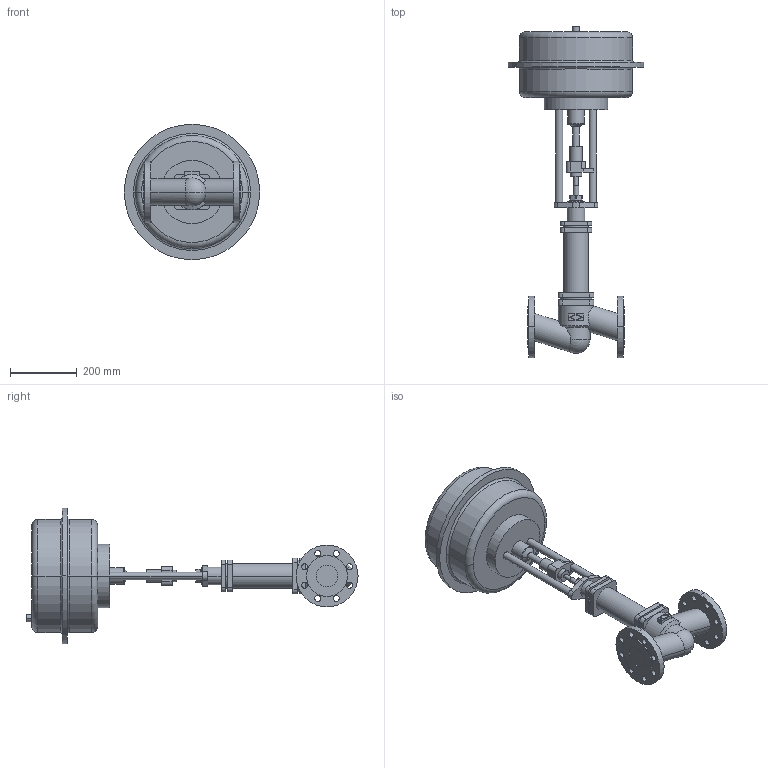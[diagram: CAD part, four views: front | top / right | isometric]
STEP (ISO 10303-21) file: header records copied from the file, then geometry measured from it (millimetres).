
FILE_DESCRIPTION(('OneSpaceDesigner STEP Export'),'2;1');
FILE_NAME('c000002092.stp','2005-12-12T11:51:44',(''),(''),'OneSpace Designer STEP processor for AP203 (Solid Model)','OneSpace Designer 13.20A 18-Aug-2005 (C) CoCreate Software GmbH','');
FILE_SCHEMA(('CONFIG_CONTROL_DESIGN'));
Length unit declared in the file: millimetre
Products named in the file (1): 1
Bounding box: 405 x 993 x 405 mm (x, y, z)
Volume: 23995696 mm3; surface area: 880018 mm2
Topology: 1 solids, 1 shells, 221 faces, 554 edges, 365 vertices
Faces by surface type: cylinder 120, plane 85, torus 10, cone 4, sphere 2
Entity records: 6372 total; most frequent: CARTESIAN_POINT 1288, ORIENTED_EDGE 1104, DIRECTION 947, EDGE_CURVE 552, VERTEX_POINT 365, AXIS2_PLACEMENT_3D 339, EDGE_LOOP 289, VECTOR 269
